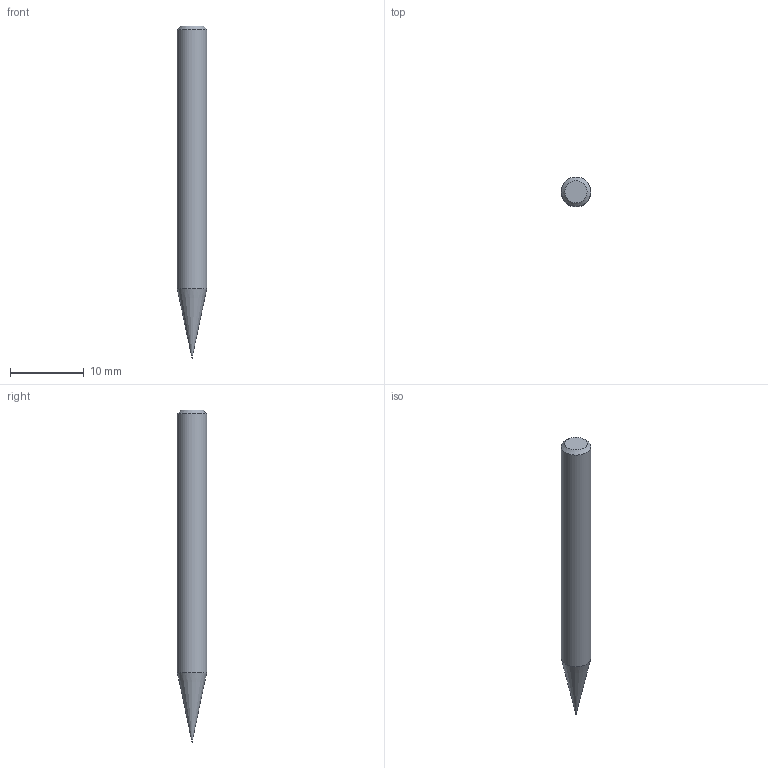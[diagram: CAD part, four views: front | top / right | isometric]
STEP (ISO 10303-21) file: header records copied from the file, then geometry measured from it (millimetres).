
FILE_DESCRIPTION((''),'2;1');
FILE_NAME('C:\Users\nsx150\AppData\Local\Temp\Mastercam 2021\ZXBT0ST9RL\TEMP.step','2021-06-25T11:02:03',(''),(''),'STEP Write','Mastercam 2021 ... CNC Software, Inc.','');
FILE_SCHEMA(('AUTOMOTIVE_DESIGN'));
Length unit declared in the file: millimetre
Products named in the file (1): None
Bounding box: 4 x 4 x 45 mm (x, y, z)
Volume: 485.3 mm3; surface area: 516.4 mm2
Topology: 2 solids, 2 shells, 9 faces, 14 edges, 8 vertices
Faces by surface type: plane 3, cylinder 3, cone 2, sphere 1
Full cylindrical faces by diameter (mm): 0.13 x1, 0.15 x1, 4 x1
Entity records: 211 total; most frequent: DIRECTION 36, CARTESIAN_POINT 25, AXIS2_PLACEMENT_3D 18, ORIENTED_EDGE 14, EDGE_LOOP 14, STYLED_ITEM 12, ADVANCED_FACE 9, FACE_BOUND 8
